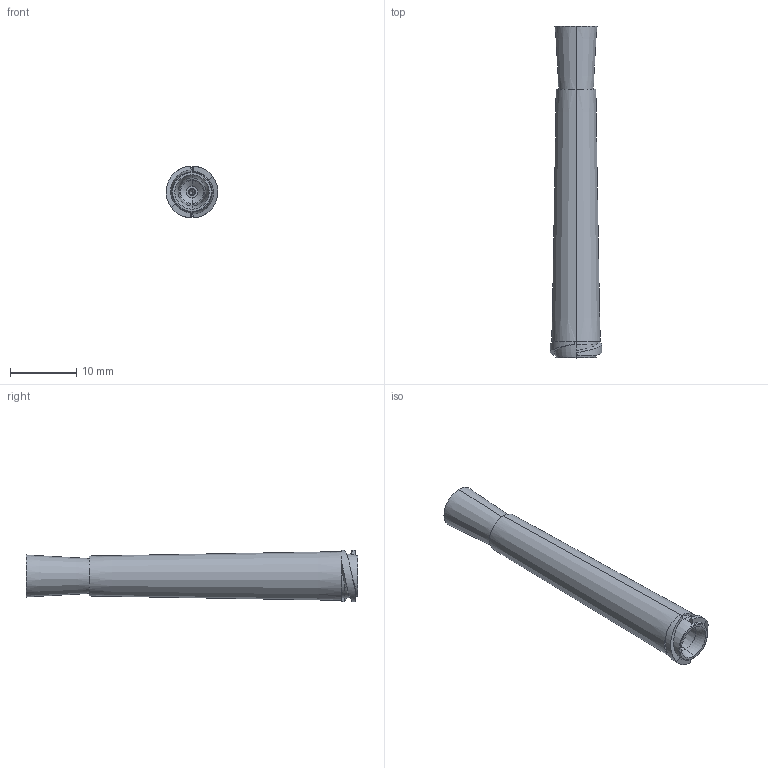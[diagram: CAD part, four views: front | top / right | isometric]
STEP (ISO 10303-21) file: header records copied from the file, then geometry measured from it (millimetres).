
FILE_DESCRIPTION (( 'STEP AP214' ), '1' );
FILE_NAME ('NORDSONEFD-7018490 BRUSH TIP SOFT NYLON.STEP', '2019-01-10T13:18:39', ( '' ), ( '' ), 'SwSTEP 2.0', 'SolidWorks 2018', '' );
FILE_SCHEMA (( 'AUTOMOTIVE_DESIGN' ));
Length unit declared in the file: inch
Products named in the file (1): NORDSONEFD-7018490  BRUSH TIP SOFT NYLON
Bounding box: 7.81 x 50.17 x 7.82 mm (x, y, z)
Volume: 1310.6 mm3; surface area: 2277.4 mm2
Topology: 1 solids, 2 shells, 274 faces, 756 edges, 480 vertices
Faces by surface type: cone 134, bspline 62, plane 33, torus 24, cylinder 21
Entity records: 9557 total; most frequent: CARTESIAN_POINT 3285, ORIENTED_EDGE 1508, DIRECTION 1059, EDGE_CURVE 754, VERTEX_POINT 480, AXIS2_PLACEMENT_3D 440, B_SPLINE_CURVE_WITH_KNOTS 338, EDGE_LOOP 288
